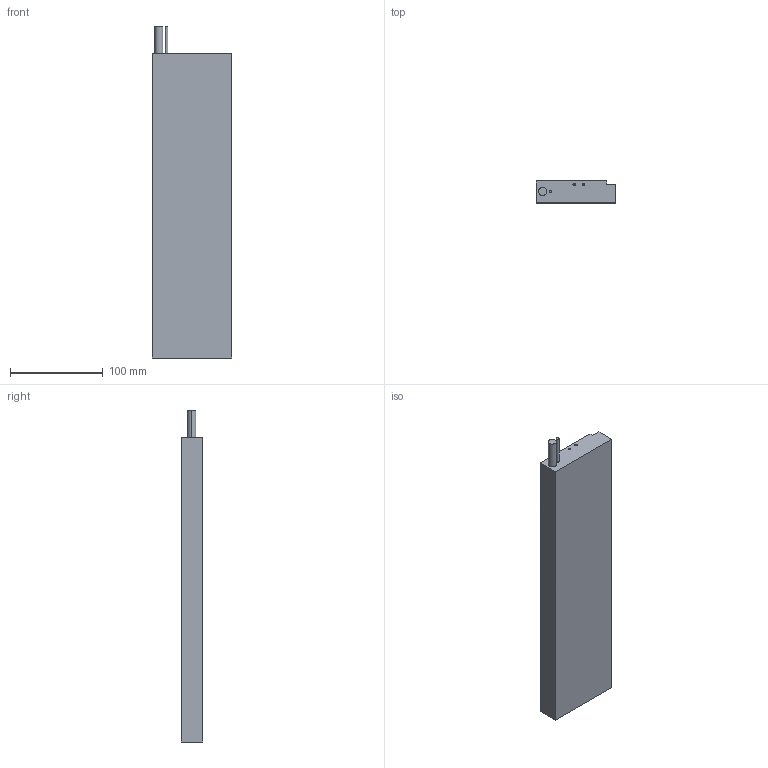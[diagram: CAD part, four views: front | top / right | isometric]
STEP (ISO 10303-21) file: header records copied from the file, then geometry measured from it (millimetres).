
FILE_DESCRIPTION (( 'STEP AP203' ), '1' );
FILE_NAME ('LMSA23.STEP', '2016-05-13T03:28:18', ( '' ), ( '' ), 'SwSTEP 2.0', 'SolidWorks 2015', '' );
FILE_SCHEMA (( 'CONFIG_CONTROL_DESIGN' ));
Length unit declared in the file: millimetre
Products named in the file (1): LMSA23
Bounding box: 86 x 23.7 x 358 mm (x, y, z)
Volume: 655755.9 mm3; surface area: 77915.1 mm2
Topology: 1 solids, 1 shells, 96 faces, 236 edges, 124 vertices
Faces by surface type: cylinder 44, cone 40, plane 12
Entity records: 2605 total; most frequent: DIRECTION 478, CARTESIAN_POINT 417, ORIENTED_EDGE 392, EDGE_CURVE 196, AXIS2_PLACEMENT_3D 185, VERTEX_POINT 124, EDGE_LOOP 118, VECTOR 108
